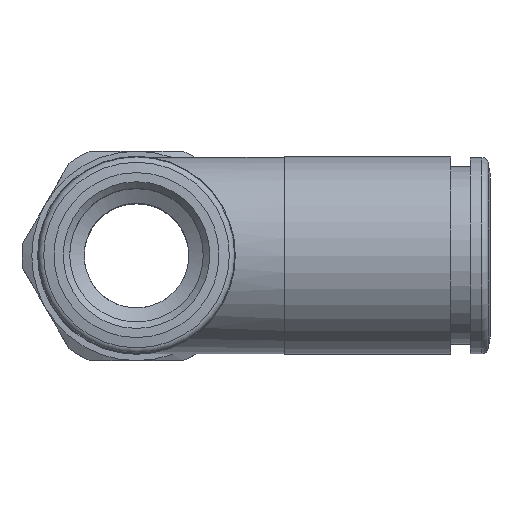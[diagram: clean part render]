
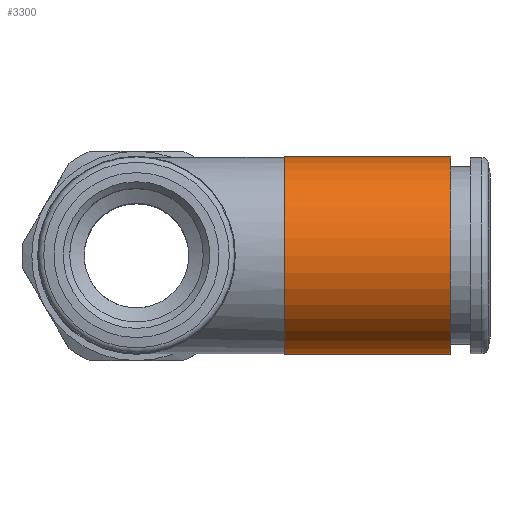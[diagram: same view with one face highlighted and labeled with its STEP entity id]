
A CAD part, top view. The second image highlights one B-rep face of the part: STEP entity #3300.
In plain terms, the highlighted cylindrical face has radius 7.55 mm (diameter 15.1 mm), a full revolution.
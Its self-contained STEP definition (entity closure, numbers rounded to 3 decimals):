
#3300=ADVANCED_FACE('', (#3310,#3320), #3330, .T.);
#11590=AXIS2_PLACEMENT_3D('Ax2Pl3d', #11600, #11610, #11620);
#11630=AXIS2_PLACEMENT_3D('Ax2Pl3d', #11640, #11650, #11660);
#11670=AXIS2_PLACEMENT_3D('Ax2Pl3d', #11680, #11690, #11700);
#11600=CARTESIAN_POINT('HicPkt', (45.153,18.213,
33.367));
#21800=CARTESIAN_POINT('', (45.153,18.213,40.917));
#11640=CARTESIAN_POINT('HicPkt', (45.153,18.213,
33.367));
#11680=CARTESIAN_POINT('HicPkt', (32.461,18.213,
33.367));
#21810=CARTESIAN_POINT('', (32.461,25.763,33.367));
#22870=CIRCLE('Circle', #11590, 7.55);
#22880=CIRCLE('Circle', #11670, 7.55);
#3330=CYLINDRICAL_SURFACE('Zyl', #11630, 7.55);
#11610=DIRECTION('Axis', (-1.,0.,0.)
);
#11620=DIRECTION('RefDirection', (0.,
0.,-1.));
#11650=DIRECTION('Axis', (-1.,0.,0.)
);
#11660=DIRECTION('RefDirection', (0.,
0.,-1.));
#11690=DIRECTION('Axis', (1.,0.,0.));
#11700=DIRECTION('RefDirection', (0.,0.,-1.));
#30370=EDGE_CURVE('', #30380, #30380, #22870, .T.);
#30390=EDGE_CURVE('', #30400, #30400, #22880, .T.);
#34770=EDGE_LOOP('Edge_loop', (#34780));
#34790=EDGE_LOOP('Edge_loop', (#34800));
#3320=FACE_BOUND('', #34790, .T.);
#3310=FACE_OUTER_BOUND('Face_outer_bound', #34770, .T.);
#34780=ORIENTED_EDGE('', *, *, #30390, .T.);
#34800=ORIENTED_EDGE('', *, *, #30370, .T.);
#30380=VERTEX_POINT('', #21800);
#30400=VERTEX_POINT('', #21810);
